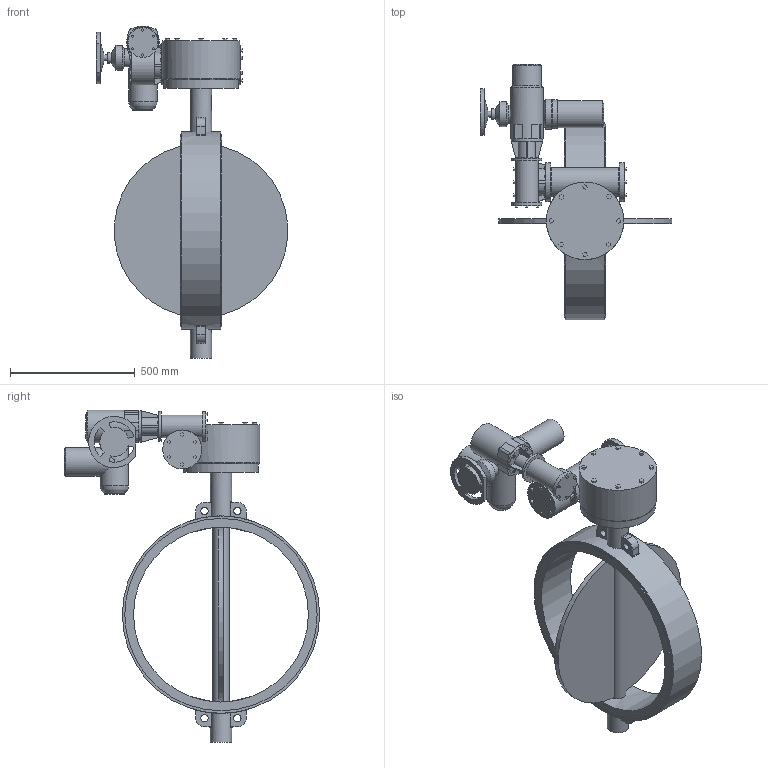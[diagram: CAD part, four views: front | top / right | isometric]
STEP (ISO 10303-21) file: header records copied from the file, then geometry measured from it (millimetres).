
FILE_DESCRIPTION(('STEP AP203'), '1');
FILE_NAME('青蜮铕 017W.YS_DN700_PN16_MT903.A10', '', ('UNSPECIFIED'), ('UNSPECIFIED'), 'ASCON STEP Converter 1.6', 'ASCON Math Kernel', '');
FILE_SCHEMA(('CONFIG_CONTROL_DESIGN'));
Length unit declared in the file: millimetre
Bounding box: 764.68 x 1022 x 1329 mm (x, y, z)
Volume: 58625122.4 mm3; surface area: 2985969.6 mm2
Topology: 1 solids, 1 shells, 563 faces, 1444 edges, 946 vertices
Faces by surface type: plane 424, cylinder 98, cone 25, torus 16
Full cylindrical faces by diameter (mm): 8.5 x4, 12 x4, 13.835 x8, 18 x8, 24 x1, 29.211 x4, 42 x1, 65 x1, 66 x1, 72 x1, 80 x1, 85 x2, 90 x1, 100 x1, 108 x1, 114 x1, 115 x1, 116 x2, 119 x1, 120 x2, 125 x1, 132 x1, 156 x3, 300 x1, 310 x1, 700 x1, 770 x2, 790 x1
Entity records: 24402 total; most frequent: CARTESIAN_POINT 6433, ORIENTED_EDGE 2702, DIRECTION 2659, EDGE_CURVE 1351, LINE 1009, VECTOR 1009, VERTEX_POINT 940, AXIS2_PLACEMENT_3D 825
